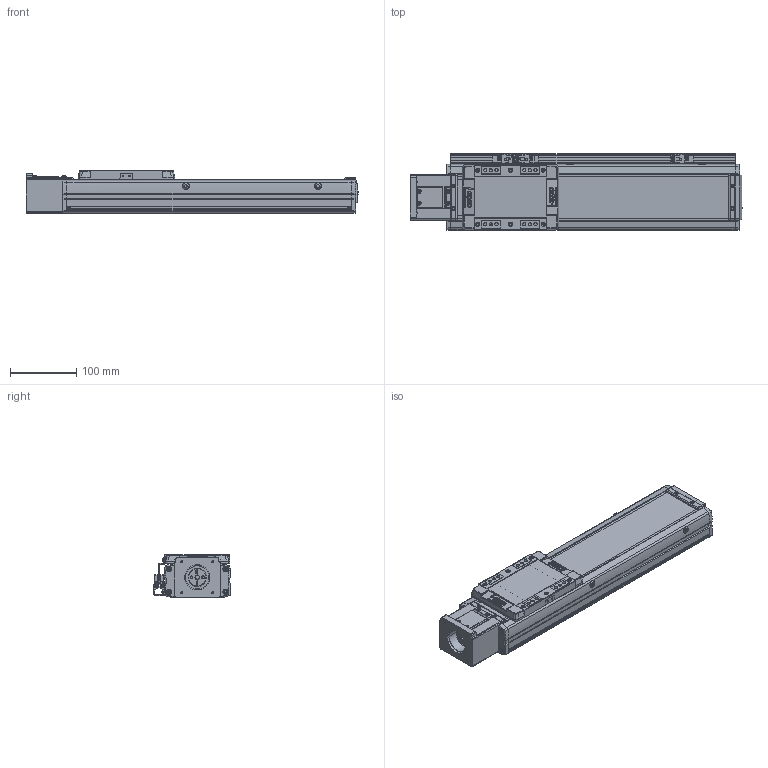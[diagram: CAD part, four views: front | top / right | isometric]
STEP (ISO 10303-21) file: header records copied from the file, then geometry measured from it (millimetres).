
FILE_DESCRIPTION(('STEP AP214'),'1');
FILE_NAME('Z:/Web/3D/SAN100/SAN100 양산용 (STEP)/SAN100ㅁㅁ-250S+3SL.stp','2013-04-25T02:35:44',(' '),(' '),'Spatial InterOp 3D',' ',' ');
FILE_SCHEMA(('automotive_design'));
Length unit declared in the file: millimetre
Products named in the file (58): SUS COVER; SFX-SAN100; RRCV-SAN100; 스크루 : Round - M4.0 x 10.0; M3.0 x 6.0; 스크루 : Round - M3.0 x 6.0; FRBL-SAN100; SLBL-SAN100; SLCV-SAN100; 스크루 : Countersunk - M3.0 x 6.0; BASE; 스크루 : Round - M5.0 x 6.0; MTHZ-SAN100-S56A; SDA26C-8-6.35; SSFX-SAN65; CPLCV-SAN65; FRCV-SAN100; SGD-SAN100; SRL-16x17-380L; EE-SX674; SBK-SX674-352
Bounding box: 502.5 x 116 x 66 mm (x, y, z)
Volume: 1544813.9 mm3; surface area: 449253.4 mm2
Topology: 58 solids, 59 shells, 2865 faces, 7522 edges, 4891 vertices
Faces by surface type: plane 1490, cylinder 1005, cone 233, sphere 72, torus 45, bspline 20
Entity records: 114456 total; most frequent: CARTESIAN_POINT 17698, DIRECTION 15886, ORIENTED_EDGE 14888, EDGE_CURVE 7444, AXIS2_PLACEMENT_3D 5714, VERTEX_POINT 4891, LINE 4458, VECTOR 4458
